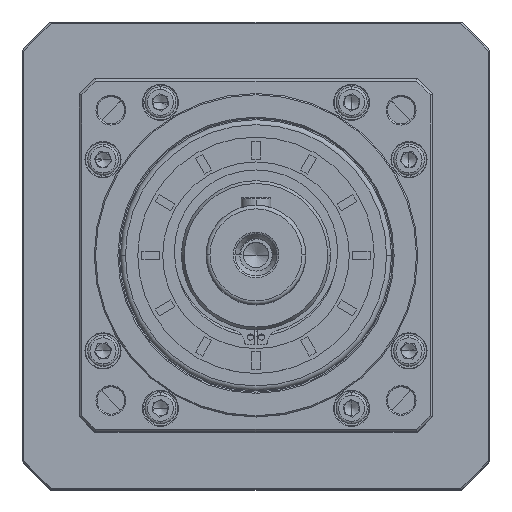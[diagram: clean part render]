
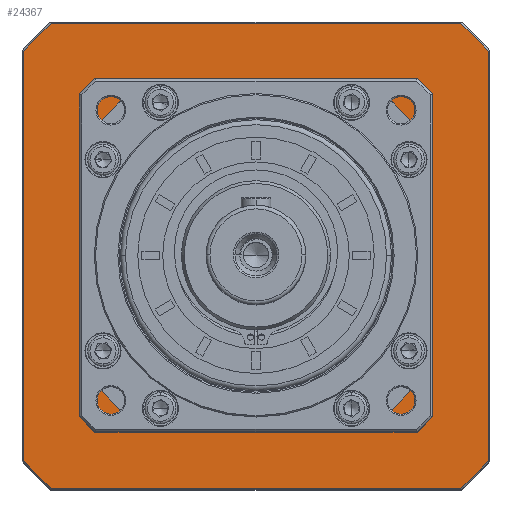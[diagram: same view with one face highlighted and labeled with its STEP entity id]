
A CAD part, top view. The second image highlights one B-rep face of the part: STEP entity #24367.
In plain terms, the highlighted planar face has unit normal (0, 0, 1).
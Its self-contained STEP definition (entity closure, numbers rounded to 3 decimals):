
#266 = ORIENTED_EDGE ( 'NONE', *, *, #18499, .F. ) ;
#609 = CIRCLE ( 'NONE', #29076, 124.5 ) ;
#936 = CARTESIAN_POINT ( 'NONE',  ( 97.341, 28.221, -9.295 ) ) ;
#1568 = ORIENTED_EDGE ( 'NONE', *, *, #50844, .F. ) ;
#1630 = ORIENTED_EDGE ( 'NONE', *, *, #25884, .F. ) ;
#4437 = VERTEX_POINT ( 'NONE', #32363 ) ;
#5703 = ORIENTED_EDGE ( 'NONE', *, *, #63925, .F. ) ;
#5822 = VECTOR ( 'NONE', #56457, 1000. ) ;
#7098 = AXIS2_PLACEMENT_3D ( 'NONE', #92623, #61314, #117691 ) ;
#7692 = AXIS2_PLACEMENT_3D ( 'NONE', #15687, #81579, #91821 ) ;
#8745 = LINE ( 'NONE', #85304, #5822 ) ;
#9415 = LINE ( 'NONE', #50626, #112497 ) ;
#11031 = DIRECTION ( 'NONE',  ( -1., 0., 0. ) ) ;
#12190 = VERTEX_POINT ( 'NONE', #17283 ) ;
#14560 = EDGE_CURVE ( 'NONE', #21921, #49952, #39386, .T. ) ;
#14837 = CARTESIAN_POINT ( 'NONE',  ( 250.048, 163.599, -9.295 ) ) ;
#15293 = CARTESIAN_POINT ( 'NONE',  ( 179.548, 121.721, -9.295 ) ) ;
#15687 = CARTESIAN_POINT ( 'NONE',  ( 179.548, 121.721, -9.295 ) ) ;
#15925 = CARTESIAN_POINT ( 'NONE',  ( 86.048, 39.514, -9.295 ) ) ;
#16247 = CARTESIAN_POINT ( 'NONE',  ( 221.426, 51.221, -9.295 ) ) ;
#16709 = EDGE_CURVE ( 'NONE', #65278, #28320, #113264, .T. ) ;
#17283 = CARTESIAN_POINT ( 'NONE',  ( 97.341, 215.221, -9.295 ) ) ;
#17708 = VERTEX_POINT ( 'NONE', #65546 ) ;
#18499 = EDGE_CURVE ( 'NONE', #73686, #87083, #106691, .T. ) ;
#18695 = CIRCLE ( 'NONE', #7692, 82. ) ;
#20195 = CARTESIAN_POINT ( 'NONE',  ( 273.048, 39.514, -9.295 ) ) ;
#20403 = DIRECTION ( 'NONE',  ( 0., 1., 0. ) ) ;
#20541 = AXIS2_PLACEMENT_3D ( 'NONE', #58321, #115147, #11031 ) ;
#21177 = EDGE_CURVE ( 'NONE', #87083, #94001, #38577, .T. ) ;
#21921 = VERTEX_POINT ( 'NONE', #15925 ) ;
#23180 = CARTESIAN_POINT ( 'NONE',  ( 179.548, 121.721, -9.295 ) ) ;
#24367 = ADVANCED_FACE ( 'NONE', ( #63947, #28608 ), #55006, .F. ) ;
#25363 = CARTESIAN_POINT ( 'NONE',  ( 221.426, 192.221, -9.295 ) ) ;
#25745 = VERTEX_POINT ( 'NONE', #109211 ) ;
#25884 = EDGE_CURVE ( 'NONE', #4437, #64969, #8745, .T. ) ;
#26374 = VECTOR ( 'NONE', #51994, 1000. ) ;
#27044 = DIRECTION ( 'NONE',  ( 0., 0., -1. ) ) ;
#27828 = CARTESIAN_POINT ( 'NONE',  ( 179.548, 121.721, -9.295 ) ) ;
#28320 = VERTEX_POINT ( 'NONE', #58322 ) ;
#28608 = FACE_BOUND ( 'NONE', #99852, .T. ) ;
#29076 = AXIS2_PLACEMENT_3D ( 'NONE', #23180, #32202, #33004 ) ;
#30805 = ORIENTED_EDGE ( 'NONE', *, *, #108172, .F. ) ;
#32202 = DIRECTION ( 'NONE',  ( 0., 0., -1. ) ) ;
#32363 = CARTESIAN_POINT ( 'NONE',  ( 250.048, 79.844, -9.295 ) ) ;
#32844 = AXIS2_PLACEMENT_3D ( 'NONE', #82635, #100337, #73166 ) ;
#33004 = DIRECTION ( 'NONE',  ( -1., 0., 0. ) ) ;
#33076 = CARTESIAN_POINT ( 'NONE',  ( 179.548, 51.221, -9.295 ) ) ;
#34141 = DIRECTION ( 'NONE',  ( -1., 0., 0. ) ) ;
#34854 = ORIENTED_EDGE ( 'NONE', *, *, #21177, .F. ) ;
#36346 = EDGE_CURVE ( 'NONE', #86965, #17708, #53439, .T. ) ;
#38110 = DIRECTION ( 'NONE',  ( 1., 0., 0. ) ) ;
#38475 = EDGE_CURVE ( 'NONE', #49952, #12190, #94140, .T. ) ;
#38577 = LINE ( 'NONE', #118897, #104880 ) ;
#39386 = LINE ( 'NONE', #86676, #99819 ) ;
#40861 = LINE ( 'NONE', #87991, #42407 ) ;
#41365 = VERTEX_POINT ( 'NONE', #25363 ) ;
#41721 = ORIENTED_EDGE ( 'NONE', *, *, #38475, .F. ) ;
#42407 = VECTOR ( 'NONE', #97457, 1000. ) ;
#42518 = VERTEX_POINT ( 'NONE', #48674 ) ;
#43686 = VECTOR ( 'NONE', #48060, 1000. ) ;
#44495 = AXIS2_PLACEMENT_3D ( 'NONE', #15293, #70909, #51504 ) ;
#44646 = VECTOR ( 'NONE', #72756, 1000. ) ;
#45157 = AXIS2_PLACEMENT_3D ( 'NONE', #119646, #27044, #92911 ) ;
#46602 = EDGE_CURVE ( 'NONE', #17708, #73686, #9415, .T. ) ;
#46921 = CARTESIAN_POINT ( 'NONE',  ( 261.755, 215.221, -9.295 ) ) ;
#48060 = DIRECTION ( 'NONE',  ( 0., -1., 0. ) ) ;
#48523 = ORIENTED_EDGE ( 'NONE', *, *, #54749, .F. ) ;
#48674 = CARTESIAN_POINT ( 'NONE',  ( 137.67, 51.221, -9.295 ) ) ;
#49712 = CIRCLE ( 'NONE', #32844, 82. ) ;
#49952 = VERTEX_POINT ( 'NONE', #93224 ) ;
#50626 = CARTESIAN_POINT ( 'NONE',  ( 273.048, 121.721, -9.295 ) ) ;
#50844 = EDGE_CURVE ( 'NONE', #28320, #25745, #87930, .T. ) ;
#51504 = DIRECTION ( 'NONE',  ( 0., 1., 0. ) ) ;
#51994 = DIRECTION ( 'NONE',  ( 1., 0., 0. ) ) ;
#52418 = ORIENTED_EDGE ( 'NONE', *, *, #36346, .F. ) ;
#53439 = CIRCLE ( 'NONE', #20541, 124.5 ) ;
#53597 = CIRCLE ( 'NONE', #58249, 82. ) ;
#53758 = ORIENTED_EDGE ( 'NONE', *, *, #76924, .F. ) ;
#54749 = EDGE_CURVE ( 'NONE', #41365, #65278, #66721, .T. ) ;
#55006 = PLANE ( 'NONE',  #45157 ) ;
#56457 = DIRECTION ( 'NONE',  ( 0., 1., 0. ) ) ;
#58249 = AXIS2_PLACEMENT_3D ( 'NONE', #27828, #121251, #38110 ) ;
#58321 = CARTESIAN_POINT ( 'NONE',  ( 179.548, 121.721, -9.295 ) ) ;
#58322 = CARTESIAN_POINT ( 'NONE',  ( 109.048, 163.599, -9.295 ) ) ;
#61314 = DIRECTION ( 'NONE',  ( 0., 0., 1. ) ) ;
#63903 = EDGE_CURVE ( 'NONE', #12190, #86965, #40861, .T. ) ;
#63925 = EDGE_CURVE ( 'NONE', #64969, #41365, #49712, .T. ) ;
#63947 = FACE_OUTER_BOUND ( 'NONE', #115379, .T. ) ;
#64261 = DIRECTION ( 'NONE',  ( -1., 0., 0. ) ) ;
#64969 = VERTEX_POINT ( 'NONE', #14837 ) ;
#65278 = VERTEX_POINT ( 'NONE', #80594 ) ;
#65546 = CARTESIAN_POINT ( 'NONE',  ( 273.048, 203.928, -9.295 ) ) ;
#66721 = LINE ( 'NONE', #66886, #44646 ) ;
#66886 = CARTESIAN_POINT ( 'NONE',  ( 179.548, 192.221, -9.295 ) ) ;
#70374 = ORIENTED_EDGE ( 'NONE', *, *, #108241, .F. ) ;
#70909 = DIRECTION ( 'NONE',  ( 0., 0., -1. ) ) ;
#72756 = DIRECTION ( 'NONE',  ( -1., 0., 0. ) ) ;
#73166 = DIRECTION ( 'NONE',  ( 1., 0., 0. ) ) ;
#73686 = VERTEX_POINT ( 'NONE', #20195 ) ;
#76924 = EDGE_CURVE ( 'NONE', #25745, #42518, #18695, .T. ) ;
#78597 = ORIENTED_EDGE ( 'NONE', *, *, #16709, .F. ) ;
#80594 = CARTESIAN_POINT ( 'NONE',  ( 137.67, 192.221, -9.295 ) ) ;
#81579 = DIRECTION ( 'NONE',  ( 0., 0., 1. ) ) ;
#82324 = AXIS2_PLACEMENT_3D ( 'NONE', #101350, #83216, #64261 ) ;
#82635 = CARTESIAN_POINT ( 'NONE',  ( 179.548, 121.721, -9.295 ) ) ;
#83216 = DIRECTION ( 'NONE',  ( 0., 0., -1. ) ) ;
#83493 = ORIENTED_EDGE ( 'NONE', *, *, #14560, .F. ) ;
#85304 = CARTESIAN_POINT ( 'NONE',  ( 250.048, 121.721, -9.295 ) ) ;
#86676 = CARTESIAN_POINT ( 'NONE',  ( 86.048, 121.721, -9.295 ) ) ;
#86965 = VERTEX_POINT ( 'NONE', #46921 ) ;
#87083 = VERTEX_POINT ( 'NONE', #95112 ) ;
#87606 = CARTESIAN_POINT ( 'NONE',  ( 109.048, 121.721, -9.295 ) ) ;
#87930 = LINE ( 'NONE', #87606, #43686 ) ;
#87991 = CARTESIAN_POINT ( 'NONE',  ( 179.548, 215.221, -9.295 ) ) ;
#88140 = DIRECTION ( 'NONE',  ( 0., -1., 0. ) ) ;
#89725 = EDGE_CURVE ( 'NONE', #42518, #93706, #104449, .T. ) ;
#91821 = DIRECTION ( 'NONE',  ( 1., 0., 0. ) ) ;
#92623 = CARTESIAN_POINT ( 'NONE',  ( 179.548, 121.721, -9.295 ) ) ;
#92911 = DIRECTION ( 'NONE',  ( -1., 0., 0. ) ) ;
#93224 = CARTESIAN_POINT ( 'NONE',  ( 86.048, 203.928, -9.295 ) ) ;
#93706 = VERTEX_POINT ( 'NONE', #16247 ) ;
#94001 = VERTEX_POINT ( 'NONE', #936 ) ;
#94140 = CIRCLE ( 'NONE', #44495, 124.5 ) ;
#95112 = CARTESIAN_POINT ( 'NONE',  ( 261.755, 28.221, -9.295 ) ) ;
#97457 = DIRECTION ( 'NONE',  ( 1., 0., 0. ) ) ;
#99819 = VECTOR ( 'NONE', #20403, 1000. ) ;
#99852 = EDGE_LOOP ( 'NONE', ( #5703, #1630, #70374, #117777, #53758, #1568, #78597, #48523 ) ) ;
#100337 = DIRECTION ( 'NONE',  ( 0., 0., 1. ) ) ;
#100961 = ORIENTED_EDGE ( 'NONE', *, *, #46602, .F. ) ;
#101350 = CARTESIAN_POINT ( 'NONE',  ( 179.548, 121.721, -9.295 ) ) ;
#104449 = LINE ( 'NONE', #33076, #26374 ) ;
#104880 = VECTOR ( 'NONE', #34141, 1000. ) ;
#105772 = ORIENTED_EDGE ( 'NONE', *, *, #63903, .F. ) ;
#106691 = CIRCLE ( 'NONE', #82324, 124.5 ) ;
#108172 = EDGE_CURVE ( 'NONE', #94001, #21921, #609, .T. ) ;
#108241 = EDGE_CURVE ( 'NONE', #93706, #4437, #53597, .T. ) ;
#109211 = CARTESIAN_POINT ( 'NONE',  ( 109.048, 79.844, -9.295 ) ) ;
#112497 = VECTOR ( 'NONE', #88140, 1000. ) ;
#113264 = CIRCLE ( 'NONE', #7098, 82. ) ;
#115147 = DIRECTION ( 'NONE',  ( 0., 0., -1. ) ) ;
#115379 = EDGE_LOOP ( 'NONE', ( #34854, #266, #100961, #52418, #105772, #41721, #83493, #30805 ) ) ;
#117691 = DIRECTION ( 'NONE',  ( 1., 0., 0. ) ) ;
#117777 = ORIENTED_EDGE ( 'NONE', *, *, #89725, .F. ) ;
#118897 = CARTESIAN_POINT ( 'NONE',  ( 179.548, 28.221, -9.295 ) ) ;
#119646 = CARTESIAN_POINT ( 'NONE',  ( 179.548, 121.721, -9.295 ) ) ;
#121251 = DIRECTION ( 'NONE',  ( 0., 0., 1. ) ) ;
